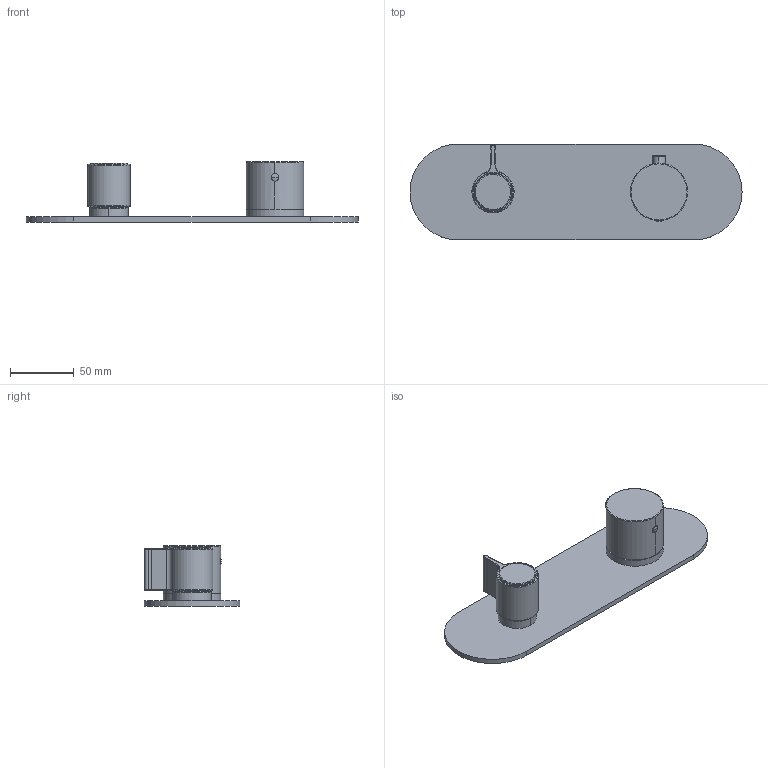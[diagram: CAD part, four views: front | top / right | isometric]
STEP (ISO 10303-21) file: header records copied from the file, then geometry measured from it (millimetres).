
FILE_DESCRIPTION((''),'2;1');
FILE_NAME('76000J772B000000_SW0001','2025-03-18T09:06:41',('cristian.dorz'),(''),'CREO PARAMETRIC BY PTC INC, 2022281','CREO PARAMETRIC BY PTC INC, 2022281','');
FILE_SCHEMA(('AUTOMOTIVE_DESIGN { 1 0 10303 214 1 1 1 1 }'));
Length unit declared in the file: millimetre
Products named in the file (1): 76000J772B000000_SW0001
Bounding box: 260 x 75 x 47 mm (x, y, z)
Volume: 179057.9 mm3; surface area: 51589.9 mm2
Topology: 1 solids, 1 shells, 92 faces, 219 edges, 132 vertices
Faces by surface type: cylinder 44, plane 23, torus 19, bspline 2, sphere 2, cone 2
Entity records: 4070 total; most frequent: CARTESIAN_POINT 1120, DIRECTION 501, ORIENTED_EDGE 430, EDGE_CURVE 215, AXIS2_PLACEMENT_3D 207, VERTEX_POINT 132, CIRCLE 107, EDGE_LOOP 105
